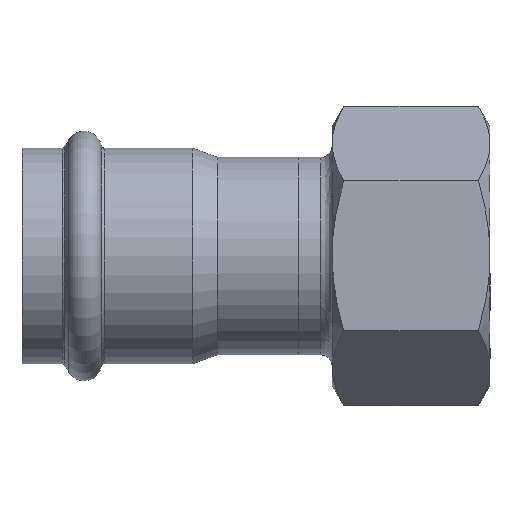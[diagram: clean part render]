
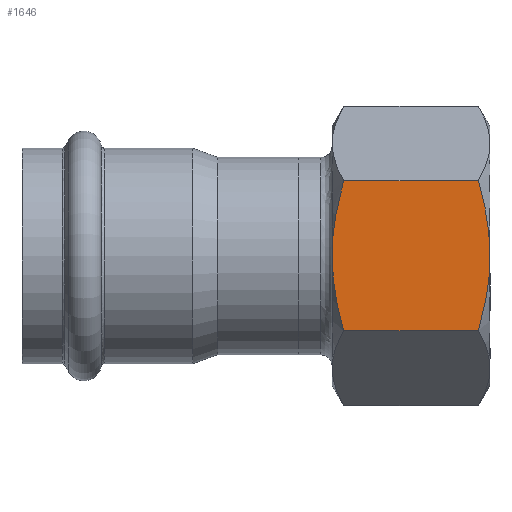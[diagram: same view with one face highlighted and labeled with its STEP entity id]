
A CAD part, top view. The second image highlights one B-rep face of the part: STEP entity #1646.
In plain terms, the highlighted planar face has unit normal (0, 0, 1) as drawn and (0, -1, 0) by its records, which use the part's own axes.
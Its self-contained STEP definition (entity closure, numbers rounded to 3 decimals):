
#799=CARTESIAN_POINT('',(-13.279,-23.,2.054));
#800=VERTEX_POINT('',#799);
#801=CARTESIAN_POINT('',(0.0,-23.,0.0));
#802=VERTEX_POINT('',#801);
#803=CARTESIAN_POINT('',(-13.279,-23.,2.054));
#804=CARTESIAN_POINT('',(-6.163,-23.,0.));
#805=CARTESIAN_POINT('',(0.0,-23.,0.0));
#813=(BOUNDED_CURVE()B_SPLINE_CURVE(2,(#803,#804,#805),.UNSPECIFIED.,.F.,.U.)B_SPLINE_CURVE_WITH_KNOTS((3,3),(0.765,2.23),.UNSPECIFIED.)CURVE()GEOMETRIC_REPRESENTATION_ITEM()RATIONAL_B_SPLINE_CURVE((1.04,1.059,1.0))REPRESENTATION_ITEM(''));
#814=EDGE_CURVE('',#800,#802,#813,.T.);
#844=CARTESIAN_POINT('',(13.279,-23.,2.054));
#845=VERTEX_POINT('',#844);
#861=CARTESIAN_POINT('',(0.0,-23.,0.0));
#862=CARTESIAN_POINT('',(6.163,-23.,0.));
#863=CARTESIAN_POINT('',(13.279,-23.,2.054));
#871=(BOUNDED_CURVE()B_SPLINE_CURVE(2,(#861,#862,#863),.UNSPECIFIED.,.F.,.U.)B_SPLINE_CURVE_WITH_KNOTS((3,3),(2.23,3.695),.UNSPECIFIED.)CURVE()GEOMETRIC_REPRESENTATION_ITEM()RATIONAL_B_SPLINE_CURVE((1.0,1.059,1.04))REPRESENTATION_ITEM(''));
#872=EDGE_CURVE('',#802,#845,#871,.T.);
#1022=CARTESIAN_POINT('',(-13.279,-23.,25.946));
#1023=VERTEX_POINT('',#1022);
#1039=CARTESIAN_POINT('',(0.0,-23.,28.));
#1040=VERTEX_POINT('',#1039);
#1041=CARTESIAN_POINT('',(0.0,-23.,28.));
#1042=CARTESIAN_POINT('',(-6.163,-23.,28.));
#1043=CARTESIAN_POINT('',(-13.279,-23.,25.946));
#1051=(BOUNDED_CURVE()B_SPLINE_CURVE(2,(#1041,#1042,#1043),.UNSPECIFIED.,.F.,.U.)B_SPLINE_CURVE_WITH_KNOTS((3,3),(2.23,3.695),.UNSPECIFIED.)CURVE()GEOMETRIC_REPRESENTATION_ITEM()RATIONAL_B_SPLINE_CURVE((1.0,1.059,1.04))REPRESENTATION_ITEM(''));
#1052=EDGE_CURVE('',#1040,#1023,#1051,.T.);
#1249=CARTESIAN_POINT('',(13.279,-23.,25.946));
#1250=VERTEX_POINT('',#1249);
#1271=CARTESIAN_POINT('',(13.279,-23.,25.946));
#1272=CARTESIAN_POINT('',(6.163,-23.,28.));
#1273=CARTESIAN_POINT('',(0.0,-23.,28.));
#1281=(BOUNDED_CURVE()B_SPLINE_CURVE(2,(#1271,#1272,#1273),.UNSPECIFIED.,.F.,.U.)B_SPLINE_CURVE_WITH_KNOTS((3,3),(0.765,2.23),.UNSPECIFIED.)CURVE()GEOMETRIC_REPRESENTATION_ITEM()RATIONAL_B_SPLINE_CURVE((1.04,1.059,1.0))REPRESENTATION_ITEM(''));
#1282=EDGE_CURVE('',#1250,#1040,#1281,.T.);
#1618=CARTESIAN_POINT('',(13.279,-23.,2.054));
#1619=DIRECTION('',(0.0,0.0,1.0));
#1620=VECTOR('',#1619,23.891);
#1621=LINE('',#1618,#1620);
#1622=EDGE_CURVE('',#845,#1250,#1621,.T.);
#1628=CARTESIAN_POINT('',(13.279,-23.,0.0));
#1629=DIRECTION('',(0.0,-1.0,0.0));
#1630=DIRECTION('',(0.0,0.0,-1.0));
#1631=AXIS2_PLACEMENT_3D('',#1628,#1629,#1630);
#1632=PLANE('',#1631);
#1633=ORIENTED_EDGE('',*,*,#872,.T.);
#1634=ORIENTED_EDGE('',*,*,#1622,.T.);
#1635=ORIENTED_EDGE('',*,*,#1282,.T.);
#1636=ORIENTED_EDGE('',*,*,#1052,.T.);
#1637=CARTESIAN_POINT('',(-13.279,-23.,2.054));
#1638=DIRECTION('',(0.0,0.0,1.0));
#1639=VECTOR('',#1638,23.891);
#1640=LINE('',#1637,#1639);
#1641=EDGE_CURVE('',#800,#1023,#1640,.T.);
#1642=ORIENTED_EDGE('',*,*,#1641,.F.);
#1643=ORIENTED_EDGE('',*,*,#814,.T.);
#1644=EDGE_LOOP('',(#1633,#1634,#1635,#1636,#1642,#1643));
#1645=FACE_OUTER_BOUND('',#1644,.T.);
#1646=ADVANCED_FACE('',(#1645),#1632,.T.);
